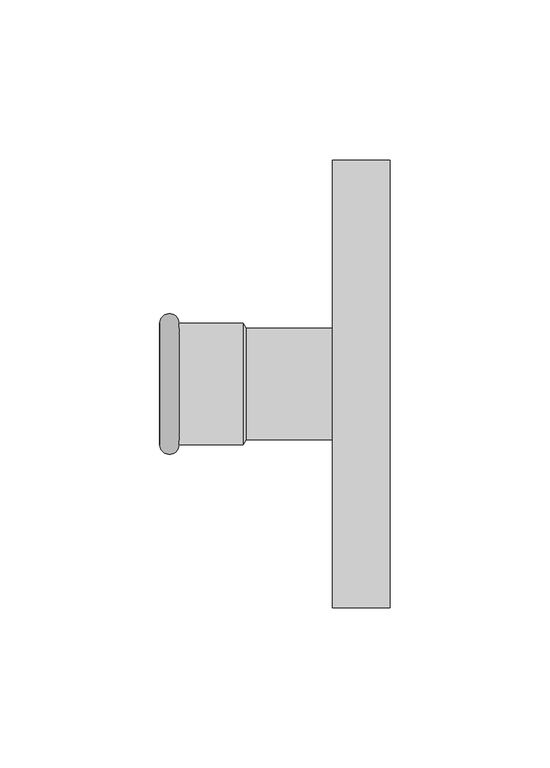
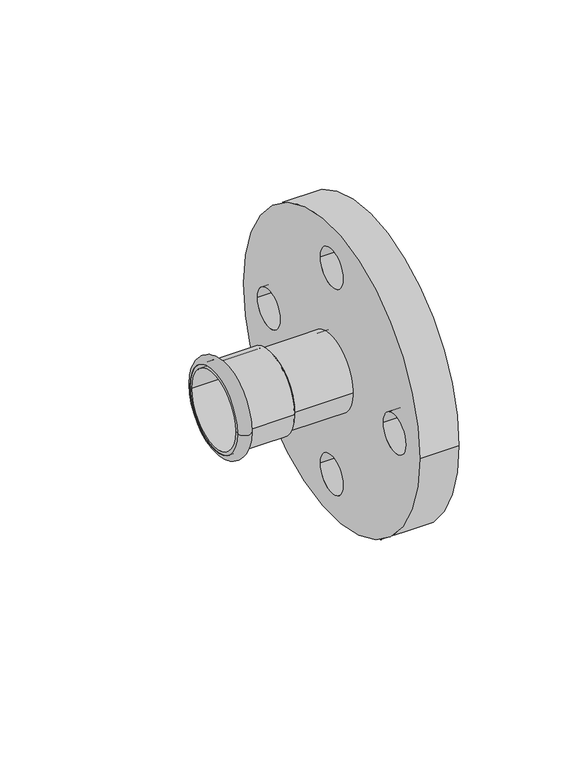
"""IFC4 building model written with IfcOpenShell, lengths in millimetres: pipe fitting geometry, NLRS_50_PIF_UN_Geberit Mapress Therm flens PN 10_16, met persmof_PRO_3208089 : DN12-100 / d15-108 - OD."""

from ifc_helpers import new_model, si_unit, point, frame, frame_2d, origin, origin_2d, place, context, project, spatial, polyline, circle_curve, ellipse_curve, trimmed, segment, composite_curve, outline, extrude, source, transform, mapped, element, save
from ifc_brep_helpers import plane_surface, cylinder_surface, revolved_surface, advanced_brep


def pipe_fitting_d829275a(model_context):
    return source(origin(), model_context, "Body", "SolidModel", [
        advanced_brep(
        [(-63.0, 19.0, 0.0), (-63.0, -19.0, 0.0), (-56.9987073, -19.0, 0.0), (-56.9987073, 19.0, 0.0)],
        [
            (0, 1, circle_curve(frame((-63.0, 0.0, 0.0), z_axis=(-1.0, 0.0, 0.0), x_axis=(0.0, -1.0, 0.0)), 19.0)),
            (1, 2),
            (2, 3, circle_curve(frame((-56.9987073, 0.0, 0.0), z_axis=(1.0, 0.0, 0.0), x_axis=(0.0, -1.0, 0.0)), 19.0)),
            (3, 0),
            (1, 0, circle_curve(frame((-63.0, 0.0, 0.0), z_axis=(-1.0, 0.0, 0.0), x_axis=(0.0, -1.0, 0.0)), 19.0)),
            (3, 2, circle_curve(frame((-56.9987073, 0.0, 0.0), z_axis=(1.0, 0.0, 0.0), x_axis=(0.0, -1.0, 0.0)), 19.0)),
            (2, 1, circle_curve(frame((-59.9993536, -19.0, 0.0), z_axis=(0.0, 0.0, -1.0), x_axis=(-1.0, 0.0, 0.0)), 3.0006464)),
            (0, 3, circle_curve(frame((-59.9993536, 19.0, 0.0), z_axis=(0.0, 0.0, -1.0), x_axis=(-1.0, 0.0, 0.0)), 3.0006464)),
        ],
        [
            revolved_surface(polyline([(-56.9987073, -19.0, 0.0), (-63.0, -19.0, 0.0)]), (-37.0, 0.0, 0.0), (1.0, 0.0, 0.0)),
            revolved_surface(trimmed(ellipse_curve(frame((-59.9993536, -19.0, 0.0), z_axis=(0.0, 0.0, 1.0), x_axis=(-1.0, 0.0, 0.0)), 3.0006464, 3.0006464), [point((-63.0, -19.0, 0.0))], [point((-56.9987073, -19.0, 0.0))], True, "CARTESIAN"), (-37.0, 0.0, 0.0), (1.0, 0.0, 0.0)),
        ],
        [
            (0, [[1, 2, 3, 4]]),
            (0, [[5, -4, 6, -2]]),
            (1, [[-3, 7, -1, 8]]),
            (1, [[-6, -8, -5, -7]]),
        ],
    ),
        advanced_brep(
        [(-63.0, 17.5, 0.0), (-63.0, -17.5, 0.0), (-36.0, -17.5, 0.0), (-36.0, 17.5, 0.0), (-63.0, 19.0, 0.0), (-63.0, -19.0, 0.0), (-37.0, 19.0, 0.0), (-37.0, -19.0, 0.0)],
        [
            (0, 1, circle_curve(frame((-63.0, 0.0, 0.0), z_axis=(-1.0, 0.0, 0.0), x_axis=(0.0, -1.0, 0.0)), 17.5)),
            (1, 2),
            (2, 3, circle_curve(frame((-36.0, 0.0, 0.0), z_axis=(1.0, 0.0, 0.0), x_axis=(0.0, -1.0, 0.0)), 17.5)),
            (3, 0),
            (1, 0, circle_curve(frame((-63.0, 0.0, 0.0), z_axis=(-1.0, 0.0, 0.0), x_axis=(0.0, -1.0, 0.0)), 17.5)),
            (3, 2, circle_curve(frame((-36.0, 0.0, 0.0), z_axis=(1.0, 0.0, 0.0), x_axis=(0.0, -1.0, 0.0)), 17.5)),
            (4, 5, circle_curve(frame((-63.0, 0.0, 0.0), z_axis=(-1.0, 0.0, 0.0), x_axis=(0.0, -1.0, 0.0)), 19.0)),
            (5, 1),
            (0, 4),
            (5, 4, circle_curve(frame((-63.0, 0.0, 0.0), z_axis=(-1.0, 0.0, 0.0), x_axis=(0.0, -1.0, 0.0)), 19.0)),
            (6, 7, circle_curve(frame((-37.0, 0.0, 0.0), z_axis=(-1.0, 0.0, 0.0), x_axis=(0.0, -1.0, 0.0)), 19.0)),
            (7, 5),
            (4, 6),
            (7, 6, circle_curve(frame((-37.0, 0.0, 0.0), z_axis=(-1.0, 0.0, 0.0), x_axis=(0.0, -1.0, 0.0)), 19.0)),
            (2, 7),
            (6, 3),
        ],
        [
            revolved_surface(polyline([(-36.0, -17.5, 0.0), (-63.0, -17.5, 0.0)]), (-37.0, 0.0, 0.0), (1.0, 0.0, 0.0)),
            plane_surface(frame((-63.0, 0.0, 0.0), z_axis=(-1.0, 0.0, 0.0), x_axis=(0.0, -1.0, 0.0))),
            cylinder_surface(frame((-37.0, 0.0, 0.0), z_axis=(1.0, 0.0, 0.0), x_axis=(0.0, -1.0, 0.0)), 19.0),
            revolved_surface(polyline([(-37.0, -19.0, 0.0), (-36.0, -17.5, 0.0)]), (-37.0, 0.0, 0.0), (1.0, 0.0, 0.0)),
        ],
        [
            (0, [[1, 2, 3, 4]]),
            (0, [[5, -4, 6, -2]]),
            (1, [[7, 8, -1, 9]]),
            (1, [[10, -9, -5, -8]]),
            (2, [[11, 12, -7, 13]]),
            (2, [[14, -13, -10, -12]]),
            (3, [[-3, 15, -11, 16]]),
            (3, [[-6, -16, -14, -15]]),
        ],
    ),
        extrude(outline(composite_curve([segment(trimmed(circle_curve(origin_2d(), 70.0), [point((-70.0, 0.0))], [point((70.0, 0.0))], False, "CARTESIAN"), True, "CONTINUOUS"), segment(trimmed(circle_curve(origin_2d(), 70.0), [point((70.0, 0.0))], [point((-70.0, 0.0))], False, "CARTESIAN"), True, "CONTINUOUS")], self_intersect=False), holes=[composite_curve([segment(trimmed(circle_curve(frame_2d((0.0, -50.0)), 9.0), [point((-9.0, -50.0))], [point((9.0, -50.0))], True, "CARTESIAN"), True, "CONTINUOUS"), segment(trimmed(circle_curve(frame_2d((0.0, -50.0)), 9.0), [point((9.0, -50.0))], [point((-9.0, -50.0))], True, "CARTESIAN"), True, "CONTINUOUS")], self_intersect=False), composite_curve([segment(trimmed(circle_curve(frame_2d((0.0, 50.0)), 9.0), [point((-9.0, 50.0))], [point((9.0, 50.0))], True, "CARTESIAN"), True, "CONTINUOUS"), segment(trimmed(circle_curve(frame_2d((0.0, 50.0)), 9.0), [point((9.0, 50.0))], [point((-9.0, 50.0))], True, "CARTESIAN"), True, "CONTINUOUS")], self_intersect=False), composite_curve([segment(trimmed(circle_curve(origin_2d(), 16.0), [point((-16.0, 0.0))], [point((16.0, 0.0))], True, "CARTESIAN"), True, "CONTINUOUS"), segment(trimmed(circle_curve(origin_2d(), 16.0), [point((16.0, 0.0))], [point((-16.0, 0.0))], True, "CARTESIAN"), True, "CONTINUOUS")], self_intersect=False), composite_curve([segment(trimmed(circle_curve(frame_2d((50.0, 0.0)), 9.0), [point((41.0, 0.0))], [point((59.0, 0.0))], True, "CARTESIAN"), True, "CONTINUOUS"), segment(trimmed(circle_curve(frame_2d((50.0, 0.0)), 9.0), [point((59.0, 0.0))], [point((41.0, 0.0))], True, "CARTESIAN"), True, "CONTINUOUS")], self_intersect=False), composite_curve([segment(trimmed(circle_curve(frame_2d((-50.0, 0.0)), 9.0), [point((-59.0, 0.0))], [point((-41.0, 0.0))], True, "CARTESIAN"), True, "CONTINUOUS"), segment(trimmed(circle_curve(frame_2d((-50.0, 0.0)), 9.0), [point((-41.0, 0.0))], [point((-59.0, 0.0))], True, "CARTESIAN"), True, "CONTINUOUS")], self_intersect=False)]), frame((-9.0, 0.0, 0.0), z_axis=(1.0, 0.0, 0.0), x_axis=(0.0, 1.0, 0.0)), (0.0, 0.0, 1.0), 18.0),
        extrude(outline(composite_curve([segment(trimmed(circle_curve(origin_2d(), 17.5), [point((-17.5, 0.0))], [point((17.5, 0.0))], False, "CARTESIAN"), True, "CONTINUOUS"), segment(trimmed(circle_curve(origin_2d(), 17.5), [point((17.5, 0.0))], [point((-17.5, 0.0))], False, "CARTESIAN"), True, "CONTINUOUS")], self_intersect=False)), frame((-37.0, 0.0, 0.0), z_axis=(1.0, 0.0, 0.0), x_axis=(0.0, 1.0, 0.0)), (0.0, 0.0, 1.0), 46.0),
    ])


if __name__ == "__main__":
    model = new_model("IFC4")
    model_context = context("Model", 3, world=origin())
    ifc_project = project(units=[si_unit("LENGTHUNIT", "METRE", prefix="MILLI")], contexts=[model_context])
    site = spatial("IfcSite", under=ifc_project)
    building = spatial("IfcBuilding", under=site)
    placement = place(None, origin())
    pipe_fitting_shape = pipe_fitting_d829275a(model_context)
    element("IfcPipeFitting", 1, ObjectType="NLRS_50_PIF_UN_Geberit Mapress Therm flens PN 10_16, met persmof_PRO_3208089 : DN12-100 / d15-108 - OD", at=placement, inside=building, context=model_context, shape_type="MappedRepresentation", body=[
        mapped(pipe_fitting_shape, transform((0.0, 0.0, 0.0), x_axis=(1.0, 0.0, 0.0), y_axis=(0.0, 1.0, 0.0), z_axis=(0.0, 0.0, 1.0))),
    ])
    save(model, "model.ifc")
